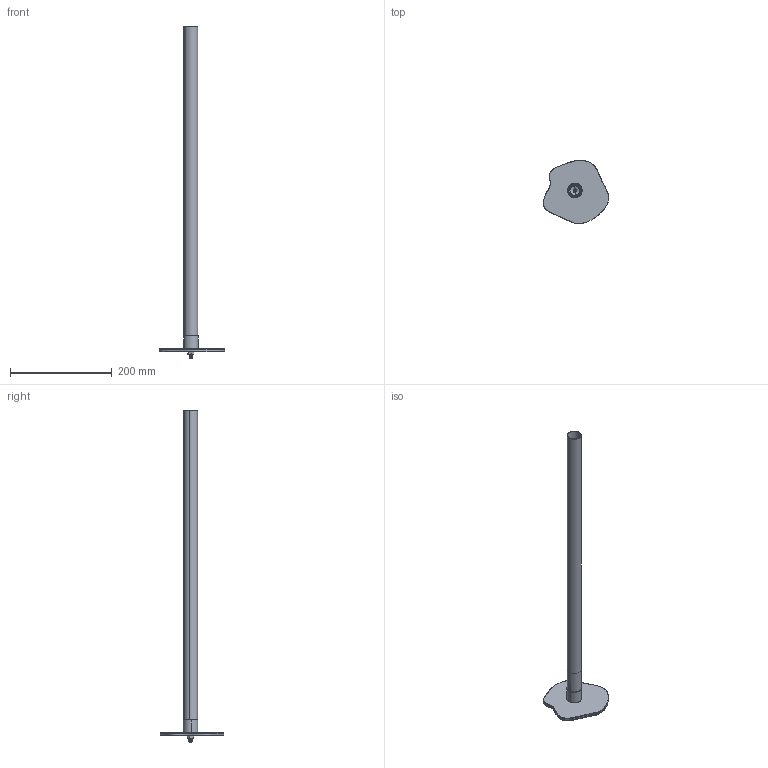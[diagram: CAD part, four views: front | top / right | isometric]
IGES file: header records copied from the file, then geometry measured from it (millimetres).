
Start section: SolidWorks IGES file using analytic representation for surfaces
Global section: file name: \\SERVER3\Design\_NEWDE~1\_DESIG~1\AAI\MODULA~1\SOLIDW~1\DEMONS~1\25DBF2~1.ASS\MODULA~1\497A0~1.TUB\TUBETO~2\Threaded End to Perpendicular Surface Connection.IGS; native system: SolidWorks 2013; preprocessor: SolidWorks 2013; author: tbraun; date: 130819.105532; units: inch
Bounding box: 128.66 x 124.75 x 653.22 mm (x, y, z)
Surface area: 187949.3 mm2 (no closed solid volume)
Topology: 0 solids, 0 shells, 324 faces, 4598 edges, 4595 vertices
Faces by surface type: revolution 274, bspline 50
